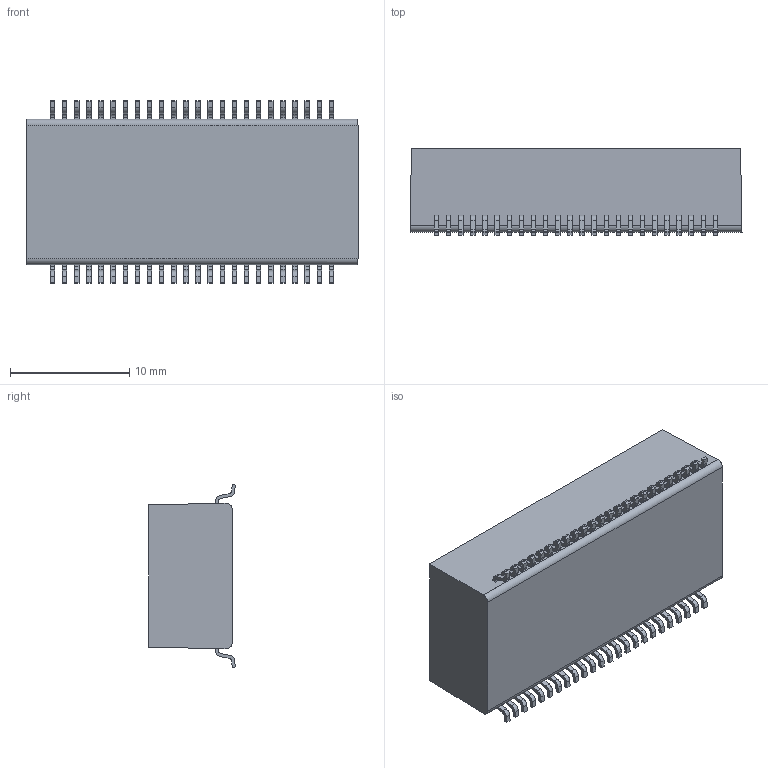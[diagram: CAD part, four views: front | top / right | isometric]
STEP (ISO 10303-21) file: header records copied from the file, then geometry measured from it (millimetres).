
FILE_DESCRIPTION (( 'STEP AP214' ), '1' );
FILE_NAME ('HX5014NL_3D.STEP', '2018-01-17T03:28:31', ( '' ), ( '' ), 'SwSTEP 2.0', 'SolidWorks 2015', '' );
FILE_SCHEMA (( 'AUTOMOTIVE_DESIGN' ));
Length unit declared in the file: inch
Products named in the file (1): HX5014NL_3D
Bounding box: 27.81 x 7.24 x 15.28 mm (x, y, z)
Volume: 2342.9 mm3; surface area: 1362 mm2
Topology: 1 solids, 1 shells, 634 faces, 1752 edges, 1168 vertices
Faces by surface type: plane 438, cylinder 196
Entity records: 20200 total; most frequent: CARTESIAN_POINT 3579, ORIENTED_EDGE 3504, DIRECTION 3398, EDGE_CURVE 1752, LINE 1360, VECTOR 1360, VERTEX_POINT 1168, AXIS2_PLACEMENT_3D 1019
